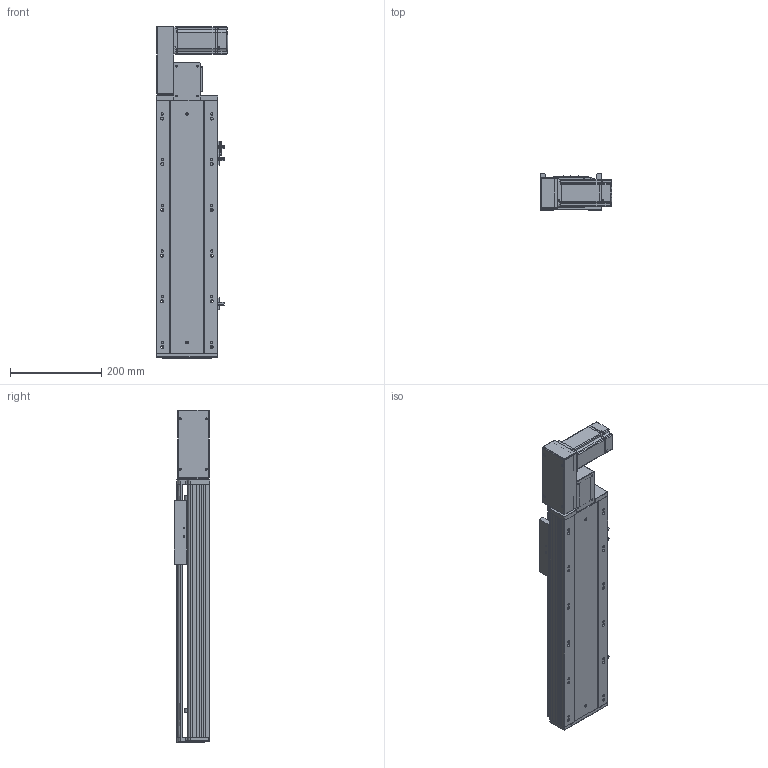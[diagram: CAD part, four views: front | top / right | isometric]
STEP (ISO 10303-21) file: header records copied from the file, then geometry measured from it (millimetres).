
FILE_DESCRIPTION (( 'STEP AP203' ), '1' );
FILE_NAME ('RY140-T-300-LK.SLDASM_300.step', '2021-03-01T06:34:19', ( '盈信电脑' ), ( '东莞市道滘镇水果街19号' ), 'SwSTEP 2.0', 'SolidWorks 2012', '' );
FILE_SCHEMA (( 'CONFIG_CONTROL_DESIGN' ));
Products named in the file (18): 滅袉蝶18-10; RY120-T蹟翐M4; RY120-T主同步轮轴承压盖; RY140-T萇儂欶; RY140-T萇儂假蚾啣; 15; 侂狟400W侜督萇儂; RY120-T肮祭湍揤踡輸1; RY140-T翋肮祭謫盓傅釱; RY120-T肮祭湍揤踡輸2; RY120外置感应片(140共用）; RY140-T-300-DL倰第奻裔啣; RY140綴裔啣; 覜茼ん672; RY140肮祭謫臏賑輸; RY140-T-300-DL倰第菁釱; RY140-T-300-LK.SLDASM_300; RY140-T翋肮謫裔啣
Assembly tree (23 placements, depth 3):
  RY140-T-300-LK.SLDASM_300
    RY140-T-300-DL倰第菁釱
    RY140肮祭謫臏賑輸
    RY140-T-300-DL倰第奻裔啣
    RY140綴裔啣
    覜茼ん672  x3
    RY120外置感应片(140共用）
    RY120-T肮祭湍揤踡輸2
    RY120-T肮祭湍揤踡輸1
    RY140-T翋肮祭謫盓傅釱
    RY140-T萇儂假蚾啣
    侂狟400W侜督萇儂
      15
    RY120-T主同步轮轴承压盖
    RY120-T蹟翐M4  x4
    RY140-T萇儂欶
    滅袉蝶18-10  x2
    RY140-T翋肮謫裔啣
Bounding box: 157 x 78 x 726.5 mm (x, y, z)
Volume: 2320283.4 mm3; surface area: 841031.1 mm2
Topology: 22 solids, 22 shells, 2563 faces, 7009 edges, 4526 vertices
Faces by surface type: plane 1385, cylinder 904, cone 174, bspline 100
Entity records: 81205 total; most frequent: CARTESIAN_POINT 19925, ORIENTED_EDGE 12594, DIRECTION 11905, EDGE_CURVE 6297, VERTEX_POINT 4125, LINE 4089, VECTOR 4089, AXIS2_PLACEMENT_3D 3908
